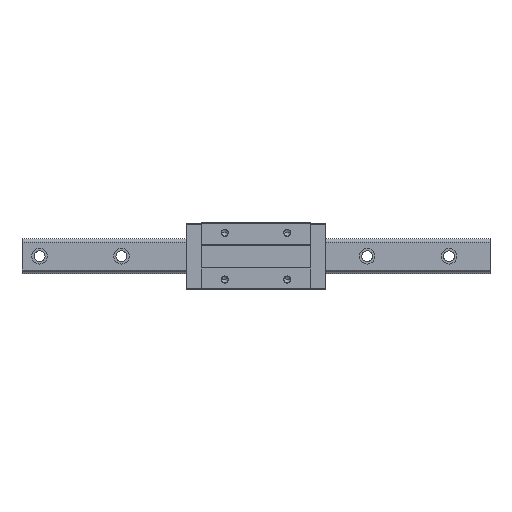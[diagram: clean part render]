
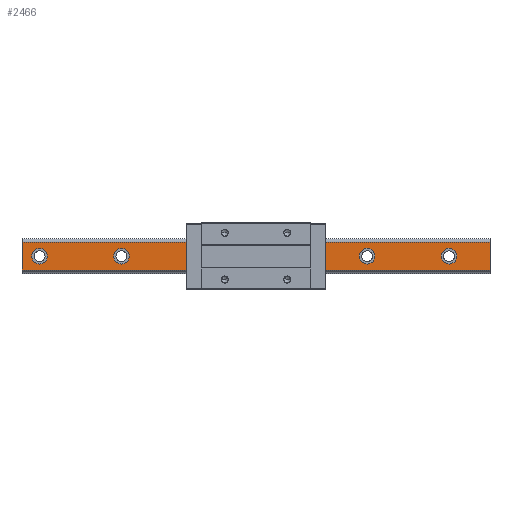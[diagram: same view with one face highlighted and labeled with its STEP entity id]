
A CAD part, top view. The second image highlights one B-rep face of the part: STEP entity #2466.
In plain terms, the highlighted planar face has unit normal (0, 0, 1).
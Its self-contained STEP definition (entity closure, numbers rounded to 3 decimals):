
#54 = CARTESIAN_POINT ( 'NONE',  ( 300., -17.696, 32. ) ) ;
#73 = DIRECTION ( 'NONE',  ( 0., 0., 1. ) ) ;
#124 = FACE_BOUND ( 'NONE', #5020, .T. ) ;
#140 = AXIS2_PLACEMENT_3D ( 'NONE', #1857, #5307, #153 ) ;
#153 = DIRECTION ( 'NONE',  ( 1., 0., 0. ) ) ;
#187 = VERTEX_POINT ( 'NONE', #2263 ) ;
#194 = EDGE_CURVE ( 'NONE', #3307, #187, #2660, .T. ) ;
#225 = DIRECTION ( 'NONE',  ( 1., 0., 0. ) ) ;
#268 = CIRCLE ( 'NONE', #983, 10. ) ;
#344 = DIRECTION ( 'NONE',  ( 0., -1., 0. ) ) ;
#379 = DIRECTION ( 'NONE',  ( 0., 0., 1. ) ) ;
#381 = CARTESIAN_POINT ( 'NONE',  ( -277.5, 0., 32. ) ) ;
#435 = VECTOR ( 'NONE', #344, 1000. ) ;
#499 = VERTEX_POINT ( 'NONE', #1765 ) ;
#569 = CARTESIAN_POINT ( 'NONE',  ( -77.5, 0., 32. ) ) ;
#589 = CARTESIAN_POINT ( 'NONE',  ( 300., 17.696, 32. ) ) ;
#612 = CIRCLE ( 'NONE', #1967, 10. ) ;
#617 = DIRECTION ( 'NONE',  ( 0., 0., 1. ) ) ;
#628 = AXIS2_PLACEMENT_3D ( 'NONE', #870, #73, #2253 ) ;
#668 = DIRECTION ( 'NONE',  ( 1., 0., 0. ) ) ;
#674 = EDGE_LOOP ( 'NONE', ( #3507, #3597 ) ) ;
#681 = EDGE_CURVE ( 'NONE', #5412, #5489, #704, .T. ) ;
#704 = LINE ( 'NONE', #589, #1799 ) ;
#747 = EDGE_CURVE ( 'NONE', #499, #2459, #3609, .T. ) ;
#843 = ORIENTED_EDGE ( 'NONE', *, *, #2226, .F. ) ;
#858 = VECTOR ( 'NONE', #4530, 1000. ) ;
#865 = EDGE_CURVE ( 'NONE', #3390, #2049, #4603, .T. ) ;
#870 = CARTESIAN_POINT ( 'NONE',  ( -67.5, 0., 32. ) ) ;
#983 = AXIS2_PLACEMENT_3D ( 'NONE', #2324, #2269, #5367 ) ;
#999 = FACE_OUTER_BOUND ( 'NONE', #5372, .T. ) ;
#1014 = CARTESIAN_POINT ( 'NONE',  ( 132.5, 0., 32. ) ) ;
#1032 = AXIS2_PLACEMENT_3D ( 'NONE', #2776, #4476, #1906 ) ;
#1138 = CARTESIAN_POINT ( 'NONE',  ( 300., 17.696, 32. ) ) ;
#1181 = CIRCLE ( 'NONE', #4077, 10. ) ;
#1203 = CARTESIAN_POINT ( 'NONE',  ( 152.5, 0., 32. ) ) ;
#1215 = LINE ( 'NONE', #2918, #435 ) ;
#1338 = ORIENTED_EDGE ( 'NONE', *, *, #1871, .F. ) ;
#1426 = FACE_BOUND ( 'NONE', #5063, .T. ) ;
#1443 = AXIS2_PLACEMENT_3D ( 'NONE', #2039, #4568, #668 ) ;
#1517 = VERTEX_POINT ( 'NONE', #2514 ) ;
#1590 = CIRCLE ( 'NONE', #4753, 10. ) ;
#1606 = VERTEX_POINT ( 'NONE', #1698 ) ;
#1655 = CARTESIAN_POINT ( 'NONE',  ( 37.5, 0., 32. ) ) ;
#1698 = CARTESIAN_POINT ( 'NONE',  ( -162.5, 0., 32. ) ) ;
#1730 = AXIS2_PLACEMENT_3D ( 'NONE', #2378, #5445, #1953 ) ;
#1742 = DIRECTION ( 'NONE',  ( 0., 0., 1. ) ) ;
#1765 = CARTESIAN_POINT ( 'NONE',  ( 237.5, 0., 32. ) ) ;
#1784 = EDGE_CURVE ( 'NONE', #5539, #4211, #5064, .T. ) ;
#1792 = CARTESIAN_POINT ( 'NONE',  ( -67.5, 0., 32. ) ) ;
#1799 = VECTOR ( 'NONE', #1975, 1000. ) ;
#1830 = CARTESIAN_POINT ( 'NONE',  ( -182.5, 0., 32. ) ) ;
#1831 = ORIENTED_EDGE ( 'NONE', *, *, #4343, .F. ) ;
#1857 = CARTESIAN_POINT ( 'NONE',  ( 142.5, 0., 32. ) ) ;
#1871 = EDGE_CURVE ( 'NONE', #1517, #4368, #268, .T. ) ;
#1906 = DIRECTION ( 'NONE',  ( 1., 0., 0. ) ) ;
#1936 = CARTESIAN_POINT ( 'NONE',  ( -57.5, 0., 32. ) ) ;
#1953 = DIRECTION ( 'NONE',  ( 1., 0., 0. ) ) ;
#1967 = AXIS2_PLACEMENT_3D ( 'NONE', #2121, #3028, #3853 ) ;
#1975 = DIRECTION ( 'NONE',  ( -1., 0., 0. ) ) ;
#2020 = EDGE_CURVE ( 'NONE', #2495, #4068, #3893, .T. ) ;
#2024 = ORIENTED_EDGE ( 'NONE', *, *, #194, .F. ) ;
#2039 = CARTESIAN_POINT ( 'NONE',  ( 142.5, 0., 32. ) ) ;
#2049 = VERTEX_POINT ( 'NONE', #1936 ) ;
#2101 = DIRECTION ( 'NONE',  ( 0., 0., 1. ) ) ;
#2121 = CARTESIAN_POINT ( 'NONE',  ( -172.5, 0., 32. ) ) ;
#2226 = EDGE_CURVE ( 'NONE', #1606, #2649, #612, .T. ) ;
#2253 = DIRECTION ( 'NONE',  ( 1., 0., 0. ) ) ;
#2263 = CARTESIAN_POINT ( 'NONE',  ( -300., -17.696, 32. ) ) ;
#2269 = DIRECTION ( 'NONE',  ( 0., 0., 1. ) ) ;
#2286 = ORIENTED_EDGE ( 'NONE', *, *, #5056, .T. ) ;
#2324 = CARTESIAN_POINT ( 'NONE',  ( 37.5, 0., 32. ) ) ;
#2338 = ORIENTED_EDGE ( 'NONE', *, *, #3663, .F. ) ;
#2378 = CARTESIAN_POINT ( 'NONE',  ( 247.5, 0., 32. ) ) ;
#2459 = VERTEX_POINT ( 'NONE', #4938 ) ;
#2466 = ADVANCED_FACE ( 'NONE', ( #2759, #2793, #124, #1426, #3162, #4889, #999 ), #3616, .F. ) ;
#2495 = VERTEX_POINT ( 'NONE', #1203 ) ;
#2514 = CARTESIAN_POINT ( 'NONE',  ( 27.5, 0., 32. ) ) ;
#2562 = LINE ( 'NONE', #4287, #858 ) ;
#2567 = ORIENTED_EDGE ( 'NONE', *, *, #2020, .F. ) ;
#2583 = CIRCLE ( 'NONE', #140, 10. ) ;
#2620 = AXIS2_PLACEMENT_3D ( 'NONE', #381, #2101, #5565 ) ;
#2649 = VERTEX_POINT ( 'NONE', #1830 ) ;
#2660 = LINE ( 'NONE', #54, #4503 ) ;
#2715 = CARTESIAN_POINT ( 'NONE',  ( -267.5, 0., 32. ) ) ;
#2759 = FACE_BOUND ( 'NONE', #4265, .T. ) ;
#2763 = CARTESIAN_POINT ( 'NONE',  ( 247.5, 0., 32. ) ) ;
#2776 = CARTESIAN_POINT ( 'NONE',  ( -277.5, 0., 32. ) ) ;
#2793 = FACE_BOUND ( 'NONE', #4210, .T. ) ;
#2795 = ORIENTED_EDGE ( 'NONE', *, *, #865, .F. ) ;
#2834 = CARTESIAN_POINT ( 'NONE',  ( -172.5, 0., 32. ) ) ;
#2860 = CARTESIAN_POINT ( 'NONE',  ( -287.5, 0., 32. ) ) ;
#2918 = CARTESIAN_POINT ( 'NONE',  ( -300., -17.696, 32. ) ) ;
#2971 = CARTESIAN_POINT ( 'NONE',  ( 300., -17.696, 32. ) ) ;
#3004 = AXIS2_PLACEMENT_3D ( 'NONE', #5346, #3188, #5083 ) ;
#3028 = DIRECTION ( 'NONE',  ( 0., 0., 1. ) ) ;
#3122 = ORIENTED_EDGE ( 'NONE', *, *, #4328, .F. ) ;
#3162 = FACE_BOUND ( 'NONE', #3167, .T. ) ;
#3167 = EDGE_LOOP ( 'NONE', ( #843, #3122 ) ) ;
#3188 = DIRECTION ( 'NONE',  ( 0., 0., -1. ) ) ;
#3264 = CIRCLE ( 'NONE', #1730, 10. ) ;
#3307 = VERTEX_POINT ( 'NONE', #2971 ) ;
#3390 = VERTEX_POINT ( 'NONE', #569 ) ;
#3416 = ORIENTED_EDGE ( 'NONE', *, *, #681, .T. ) ;
#3467 = DIRECTION ( 'NONE',  ( 1., 0., 0. ) ) ;
#3488 = CIRCLE ( 'NONE', #1032, 10. ) ;
#3507 = ORIENTED_EDGE ( 'NONE', *, *, #4075, .F. ) ;
#3597 = ORIENTED_EDGE ( 'NONE', *, *, #1784, .F. ) ;
#3609 = CIRCLE ( 'NONE', #4239, 10. ) ;
#3616 = PLANE ( 'NONE',  #3004 ) ;
#3663 = EDGE_CURVE ( 'NONE', #5412, #3307, #2562, .T. ) ;
#3734 = ORIENTED_EDGE ( 'NONE', *, *, #5167, .F. ) ;
#3853 = DIRECTION ( 'NONE',  ( 1., 0., 0. ) ) ;
#3875 = EDGE_CURVE ( 'NONE', #2049, #3390, #1590, .T. ) ;
#3893 = CIRCLE ( 'NONE', #1443, 10. ) ;
#3999 = DIRECTION ( 'NONE',  ( -1., 0., 0. ) ) ;
#4068 = VERTEX_POINT ( 'NONE', #1014 ) ;
#4073 = DIRECTION ( 'NONE',  ( 1., 0., 0. ) ) ;
#4075 = EDGE_CURVE ( 'NONE', #4211, #5539, #3488, .T. ) ;
#4077 = AXIS2_PLACEMENT_3D ( 'NONE', #1655, #379, #4678 ) ;
#4171 = AXIS2_PLACEMENT_3D ( 'NONE', #2834, #4532, #225 ) ;
#4210 = EDGE_LOOP ( 'NONE', ( #2567, #3734 ) ) ;
#4211 = VERTEX_POINT ( 'NONE', #2715 ) ;
#4239 = AXIS2_PLACEMENT_3D ( 'NONE', #2763, #617, #4073 ) ;
#4252 = ORIENTED_EDGE ( 'NONE', *, *, #747, .F. ) ;
#4265 = EDGE_LOOP ( 'NONE', ( #1831, #4252 ) ) ;
#4287 = CARTESIAN_POINT ( 'NONE',  ( 300., -17.696, 32. ) ) ;
#4328 = EDGE_CURVE ( 'NONE', #2649, #1606, #4435, .T. ) ;
#4343 = EDGE_CURVE ( 'NONE', #2459, #499, #3264, .T. ) ;
#4368 = VERTEX_POINT ( 'NONE', #4559 ) ;
#4435 = CIRCLE ( 'NONE', #4171, 10. ) ;
#4474 = CARTESIAN_POINT ( 'NONE',  ( -300., 17.696, 32. ) ) ;
#4476 = DIRECTION ( 'NONE',  ( 0., 0., 1. ) ) ;
#4503 = VECTOR ( 'NONE', #3999, 1000. ) ;
#4530 = DIRECTION ( 'NONE',  ( 0., -1., 0. ) ) ;
#4532 = DIRECTION ( 'NONE',  ( 0., 0., 1. ) ) ;
#4559 = CARTESIAN_POINT ( 'NONE',  ( 47.5, 0., 32. ) ) ;
#4568 = DIRECTION ( 'NONE',  ( 0., 0., 1. ) ) ;
#4603 = CIRCLE ( 'NONE', #628, 10. ) ;
#4678 = DIRECTION ( 'NONE',  ( 1., 0., 0. ) ) ;
#4723 = EDGE_CURVE ( 'NONE', #4368, #1517, #1181, .T. ) ;
#4753 = AXIS2_PLACEMENT_3D ( 'NONE', #1792, #1742, #3467 ) ;
#4889 = FACE_BOUND ( 'NONE', #674, .T. ) ;
#4938 = CARTESIAN_POINT ( 'NONE',  ( 257.5, 0., 32. ) ) ;
#5020 = EDGE_LOOP ( 'NONE', ( #5352, #1338 ) ) ;
#5056 = EDGE_CURVE ( 'NONE', #5489, #187, #1215, .T. ) ;
#5063 = EDGE_LOOP ( 'NONE', ( #5074, #2795 ) ) ;
#5064 = CIRCLE ( 'NONE', #2620, 10. ) ;
#5074 = ORIENTED_EDGE ( 'NONE', *, *, #3875, .F. ) ;
#5083 = DIRECTION ( 'NONE',  ( -1., 0., 0. ) ) ;
#5167 = EDGE_CURVE ( 'NONE', #4068, #2495, #2583, .T. ) ;
#5307 = DIRECTION ( 'NONE',  ( 0., 0., 1. ) ) ;
#5346 = CARTESIAN_POINT ( 'NONE',  ( 300., -17.696, 32. ) ) ;
#5352 = ORIENTED_EDGE ( 'NONE', *, *, #4723, .F. ) ;
#5367 = DIRECTION ( 'NONE',  ( 1., 0., 0. ) ) ;
#5372 = EDGE_LOOP ( 'NONE', ( #2286, #2024, #2338, #3416 ) ) ;
#5412 = VERTEX_POINT ( 'NONE', #1138 ) ;
#5445 = DIRECTION ( 'NONE',  ( 0., 0., 1. ) ) ;
#5489 = VERTEX_POINT ( 'NONE', #4474 ) ;
#5539 = VERTEX_POINT ( 'NONE', #2860 ) ;
#5565 = DIRECTION ( 'NONE',  ( 1., 0., 0. ) ) ;
